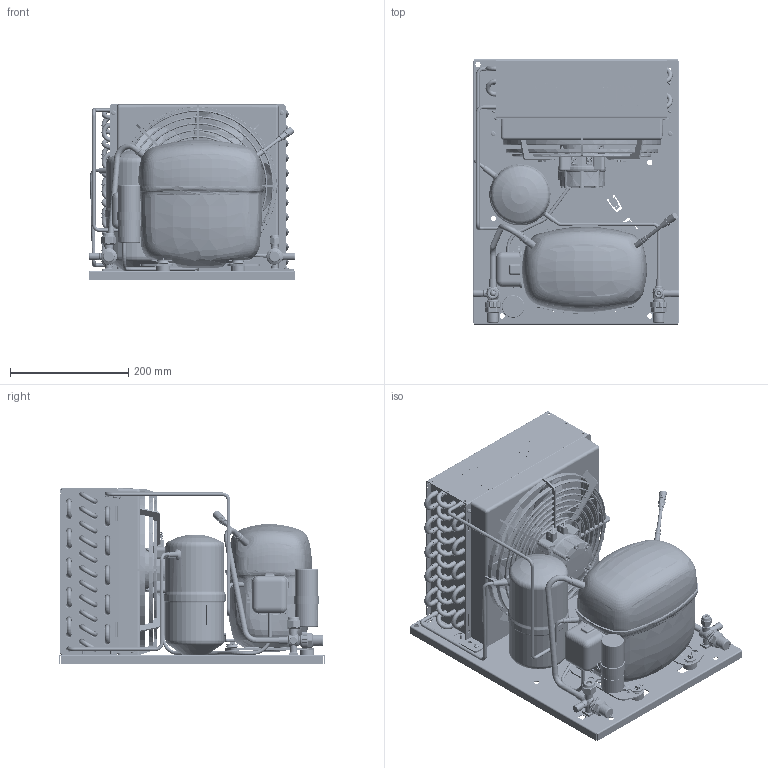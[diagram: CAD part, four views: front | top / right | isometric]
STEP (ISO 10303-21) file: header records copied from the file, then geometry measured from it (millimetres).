
FILE_DESCRIPTION(/* description */ ('Unknown'),/* implementation_level */ '2;1');
FILE_NAME(/* name */ '2298-0038',/* time_stamp */ '2022-01-10T14:56:53+01:00',/* author */ ('Unknown'),/* organization */ ('Unknown'),/* preprocessor_version */ 'ST-DEVELOPER v16.7',/* originating_system */ 'Solid Edge',/* authorisation */ 'Unknown');
FILE_SCHEMA (('AUTOMOTIVE_DESIGN {1 0 10303 214 3 1 1}'));
Products named in the file (54): 2298-0038; 92505122_oa_0_1; SC15CLX.2-A-CSIR_0; sc15mlx-a-csir_104B0078_ASM_0; sc15mlx-a-csir_104B0605_0; sc15mlx-a-csir_104B0494_0; sc15mlx-a-csir_103B0887_0; sc15mlx-a-csir_104B1402_0; sc15mlx-a-csir_104B0321_0; sc15mlx-a-csir_104B0485_0; sc15mlx-a-csir_103N0510_0; sc15mlx-a-csir_103N2009_0; sc15mlx-a-csir_117U5017_0; 84fm8x12xxxteff00; 6062_22M6; cg254n_1; 1140270f71_1; r50115206_1; r59700314_1; r50115207_1; 2990210_1; r50115201_1; r50006108_1; 6072_23m10; A254-28_1; 100_200vs00; 84DM8X6.9XXESRF00; 7210-0003_0; 84RM10X21XXPIAF00_1; sc18cl-a-csr_piedino_1; 84v1.8x35xxcopf00_1; 8392_A_1; 7560_3; 7030_3m10; 7560_2; 7010_22; 99510255; 8351_2_1; 99510255_Tubo; 84a4.2x9.5xtbcf01_1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
Assembly tree (114 placements, depth 4):
  2298-0038
    92505122_oa_0_1
    SC15CLX.2-A-CSIR_0
      sc15mlx-a-csir_104B0078_ASM_0
        sc15mlx-a-csir_104B0605_0
        sc15mlx-a-csir_104B0494_0
        sc15mlx-a-csir_103B0887_0
      sc15mlx-a-csir_104B1402_0
      sc15mlx-a-csir_104B0321_0  x2
      sc15mlx-a-csir_104B0485_0
      sc15mlx-a-csir_103N0510_0
      sc15mlx-a-csir_103N2009_0
      sc15mlx-a-csir_117U5017_0
    84fm8x12xxxteff00  x2
    6062_22M6
    cg254n_1
    1140270f71_1
      r50115206_1
      r59700314_1  x22
      r50115207_1
      2990210_1  x21
      r50115201_1
      r50006108_1
    6072_23m10
    A254-28_1
    100_200vs00
    84DM8X6.9XXESRF00
    7210-0003_0  x2
    84RM10X21XXPIAF00_1  x4
    sc18cl-a-csr_piedino_1  x4
    84v1.8x35xxcopf00_1  x4
    8392_A_1  x2
    7560_3
    7030_3m10
    7560_2
    7010_22
    99510255
      8351_2_1
      99510255_Tubo
      8392_A_1
    84a4.2x9.5xtbcf01_1  x4
    84t4.8x8xxxtcca00_oa_1_1
    84t4.8x8xxxtcca00_oa_2_1
    84t4.8x8xxxtcca00_oa_3_1
    84t4.8x8xxxtcca00_oa_4_1
    84dm4x3.6xxesrf00_1  x4
    99000082_secop_1
    99000082_SECOP_F-GAS_1
    6803-1244
    9221-0002_1
    6803-1249
    6803-1256
    6805-1096
    62010155_1_oa_0
    2298-0038_CAVO_VENTOLA
Bounding box: 350 x 450 x 297.36 mm (x, y, z)
Volume: 7579824.2 mm3; surface area: 2926465.3 mm2
Topology: 110 solids, 116 shells, 11478 faces, 29572 edges, 18903 vertices
Faces by surface type: plane 5366, cylinder 2160, bspline 1900, torus 1207, cone 741, sphere 104
Full cylindrical faces by diameter (mm): 0.5 x1, 1 x3, 1.2 x4, 1.8 x20, 2.2 x8, 2.45 x6, 2.7 x4, 3 x6, 3.14 x6, 3.2 x2, 3.242 x4, 3.3 x2, 3.5 x16, 3.6 x4, 3.7 x4, 3.85 x2, 4 x12, 4.2 x18, 4.205 x11, 4.3 x1, 4.4 x4, 4.5 x6, 4.6 x1, 4.66 x5, 4.7 x4, 4.95 x1, 5 x15, 5.2 x1, 5.4 x6, 5.42 x1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
Entity records: 562395 total; most frequent: CARTESIAN_POINT 295206, ORIENTED_EDGE 51672, DIRECTION 42138, EDGE_CURVE 25836, VERTEX_POINT 17262, AXIS2_PLACEMENT_3D 14721, FACE_BOUND 13164, EDGE_LOOP 13162
